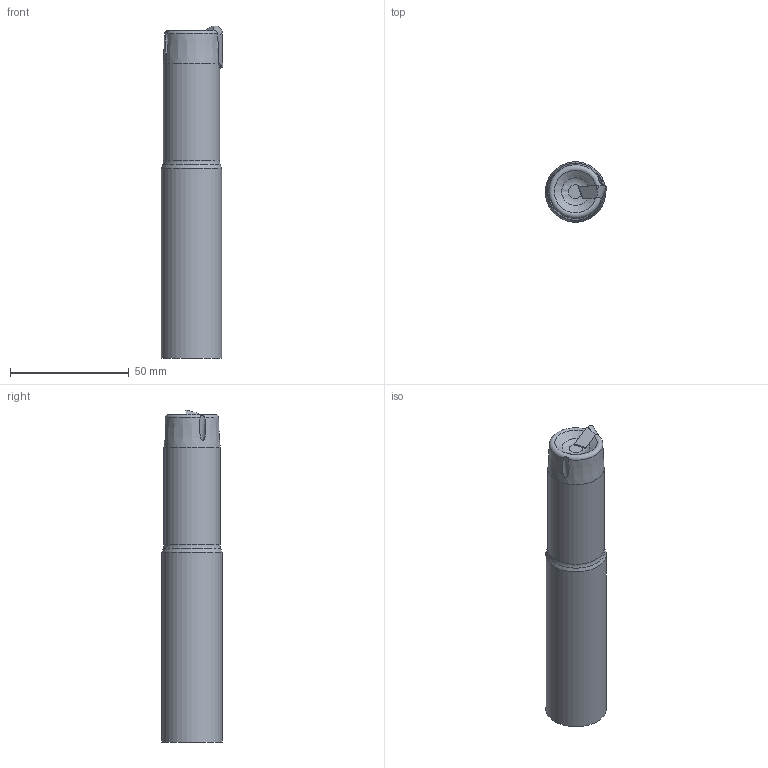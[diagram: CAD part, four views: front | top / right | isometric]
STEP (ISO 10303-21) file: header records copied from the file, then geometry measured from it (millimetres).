
FILE_DESCRIPTION(/* description */ (''),/* implementation_level */ '2;1');
FILE_NAME(/* name */ 'PAXSA5100HR-A-HAAS.stp',/* time_stamp */ '2020-11-19T09:40:14+09:00',/* author */ (''),/* organization */ (''),/* preprocessor_version */ 'ST-DEVELOPER v16',/* originating_system */ 'SIEMENS PLM Software NX 10.0',/* authorisation */ '');
FILE_SCHEMA (('CONFIG_CONTROL_DESIGN'));
Length unit declared in the file: millimetre
Products named in the file (1): model12
Bounding box: 25.84 x 25.4 x 140.01 mm (x, y, z)
Volume: 61091.8 mm3; surface area: 15241.4 mm2
Topology: 2 solids, 2 shells, 26 faces, 69 edges, 44 vertices
Faces by surface type: plane 10, cylinder 9, cone 4, torus 2, bspline 1
Full cylindrical faces by diameter (mm): 3 x2, 8 x1, 23.712 x1, 25.4 x1
Entity records: 997 total; most frequent: CARTESIAN_POINT 361, DIRECTION 116, ORIENTED_EDGE 96, EDGE_CURVE 48, AXIS2_PLACEMENT_3D 48, EDGE_LOOP 40, VERTEX_POINT 37, FACE_BOUND 28
